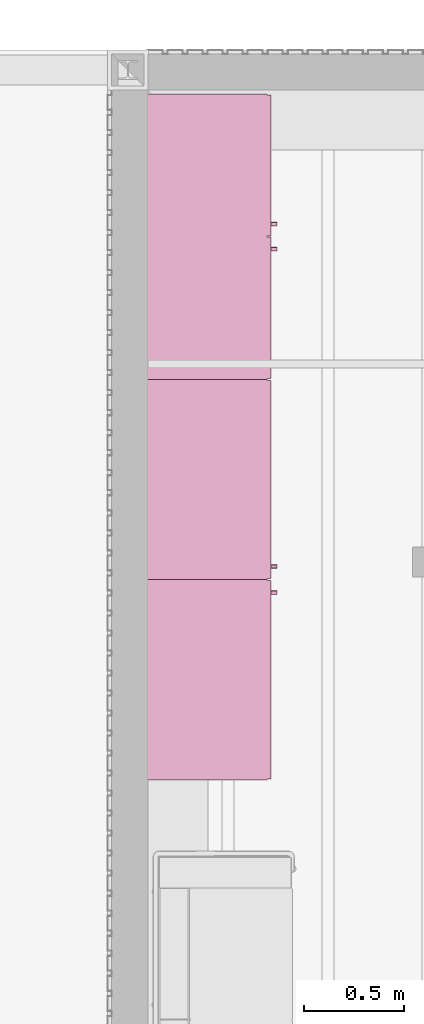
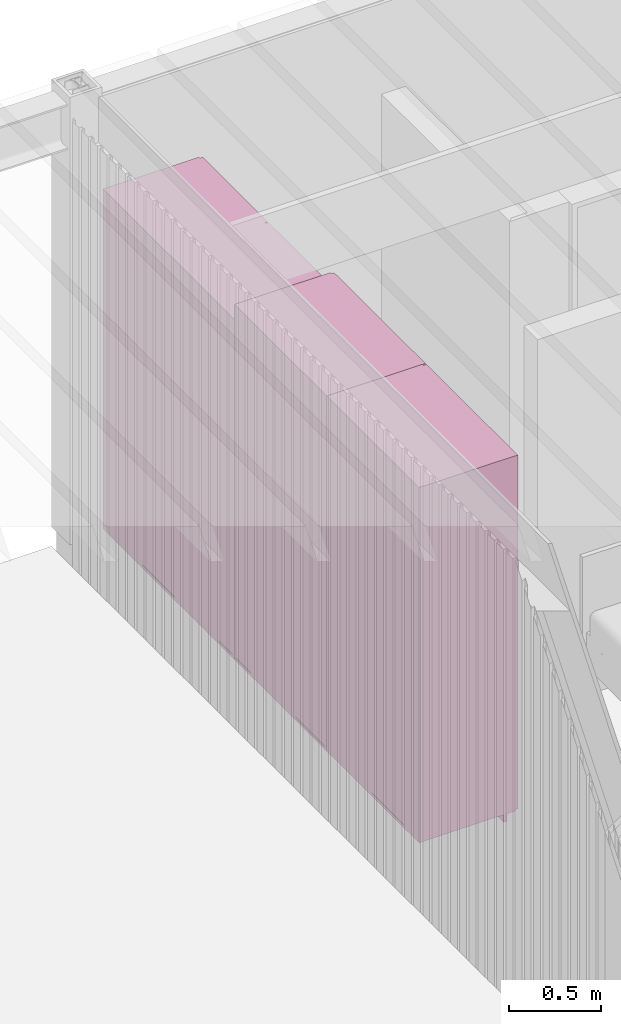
# One storey, part 24 of 28: 3 furniture elements.
"""IFC4X3_ADD2 building model written with IfcOpenShell, lengths in metres."""

from ifc_helpers import new_model, si_unit, direction, frame, frame_2d, origin_with_axes, origin_2d_with_axis, place, context, subcontext, project, spatial, polyline, rectangle, outline, extrude, source, transform, mapped, material, element, save


model = new_model("IFC4X3_ADD2")

# Units and contexts
model_context = context("Model", 3, precision=1e-05, world=origin_with_axes(), true_north=direction((0.0, 1.0)))
body_context = subcontext(model_context, "Body", "Model", "MODEL_VIEW")
ifc_project = project(units=[si_unit("LENGTHUNIT", "METRE"), si_unit("AREAUNIT", "SQUARE_METRE"), si_unit("VOLUMEUNIT", "CUBIC_METRE"), si_unit("PLANEANGLEUNIT", "RADIAN"), si_unit("TIMEUNIT", "SECOND"), si_unit("MASSUNIT", "GRAM")], contexts=[model_context])

# Site, building, storey, space
site_placement = place(None, origin_with_axes())
site = spatial("IfcSite", under=ifc_project, at=site_placement, Name="Site", CompositionType="ELEMENT")
building_placement = place(site_placement, origin_with_axes())
building = spatial("IfcBuilding", under=site, at=building_placement, Name="Default Building")
storey_placement = place(building_placement, frame((0.0, 0.0, -0.08), z_axis=(0.0, 0.0, 1.0), x_axis=(1.0, 0.0, 0.0)))
storey = spatial("IfcBuildingStorey", under=building, at=storey_placement, Name="Gruendung", Elevation=-0.08)
space_placement = place(storey_placement, frame((6.600001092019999, 16.100001, 0.08), z_axis=(0.0, 0.0, 1.0), x_axis=(1.0, 0.0, 0.0)))
space = spatial("IfcSpace", under=storey, at=space_placement, Name="Space", CompositionType="ELEMENT", PredefinedType="SPACE")

# Furniture
ifc_material = material(Name="Default")
shared_shape_1 = source(origin_with_axes(), body_context, "Body", "SweptSolid", [
    extrude(rectangle(XDim=0.6, YDim=0.02, at=frame_2d((0.0, 0.0), x_axis=(0.0, 1.0))), frame((0.01, 0.3, 0.05000000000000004), z_axis=(0.0, 0.0, 1.0), x_axis=(1.0, 0.0, 0.0)), (0.0, 0.0, 1.0), 2.25),
    extrude(rectangle(XDim=0.6, YDim=0.02000000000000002, at=frame_2d((0.0, 0.0), x_axis=(0.0, 1.0))), frame((1.415, 0.3, 0.05000000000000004), z_axis=(0.0, 0.0, 1.0), x_axis=(1.0, 0.0, 0.0)), (0.0, 0.0, 1.0), 2.25),
    extrude(rectangle(XDim=1.385, YDim=0.6, at=origin_2d_with_axis()), frame((0.7125, 0.3, 2.28), z_axis=(0.0, 0.0, 1.0), x_axis=(1.0, 0.0, 0.0)), (0.0, 0.0, 1.0), 0.01999999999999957),
    extrude(rectangle(XDim=1.385, YDim=0.6, at=origin_2d_with_axis()), frame((0.7125, 0.3, 0.05), z_axis=(0.0, 0.0, 1.0), x_axis=(1.0, 0.0, 0.0)), (0.0, 0.0, 1.0), 0.02),
    extrude(rectangle(XDim=1.385, YDim=0.02000000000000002, at=origin_2d_with_axis()), frame((0.7125, 0.589, 0.06999999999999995), z_axis=(0.0, 0.0, 1.0), x_axis=(1.0, 0.0, 0.0)), (0.0, 0.0, 1.0), 2.21),
    extrude(rectangle(XDim=0.705, YDim=0.02, at=origin_2d_with_axis()), frame((0.3574999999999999, -0.0115, 0.05500000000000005), z_axis=(0.0, 0.0, 1.0), x_axis=(1.0, 0.0, 0.0)), (0.0, 0.0, 1.0), 2.24),
    extrude(rectangle(XDim=0.7049999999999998, YDim=0.02, at=origin_2d_with_axis()), frame((1.0675, -0.0115, 0.05500000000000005), z_axis=(0.0, 0.0, 1.0), x_axis=(1.0, 0.0, 0.0)), (0.0, 0.0, 1.0), 2.24),
    extrude(rectangle(XDim=1.425, YDim=0.02, at=origin_2d_with_axis()), frame((0.7125, 0.06, 0.0), z_axis=(0.0, 0.0, 1.0), x_axis=(1.0, 0.0, 0.0)), (0.0, 0.0, 1.0), 0.05),
    extrude(outline(polyline([(0.00980751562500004, 0.00195048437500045), (0.009951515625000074, 0.0009794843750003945), (0.009999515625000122, 4.843750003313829e-07), (0.009951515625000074, -0.0009795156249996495), (0.00980751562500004, -0.001950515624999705), (0.009568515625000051, -0.002902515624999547), (0.00923851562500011, -0.003826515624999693), (0.008818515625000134, -0.004713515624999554), (0.008314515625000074, -0.005555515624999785), (0.007729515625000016, -0.006343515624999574), (0.007070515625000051, -0.007070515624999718), (0.006343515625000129, -0.007729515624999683), (0.005555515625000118, -0.008314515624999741), (0.004713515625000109, -0.008818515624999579), (0.003826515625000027, -0.009238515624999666), (0.002902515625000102, -0.009568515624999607), (0.001950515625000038, -0.009807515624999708), (0.0009795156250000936, -0.00995151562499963), (-4.843749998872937e-07, -0.009999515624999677), (-0.0009794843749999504, -0.00995151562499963), (-0.001950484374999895, -0.009807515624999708), (-0.002902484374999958, -0.009568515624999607), (-0.003826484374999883, -0.009238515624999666), (-0.004713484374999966, -0.008818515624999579), (-0.005555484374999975, -0.008314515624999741), (-0.006343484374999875, -0.007729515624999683), (-0.007070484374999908, -0.007070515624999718), (-0.007729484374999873, -0.006343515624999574), (-0.008314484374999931, -0.005555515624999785), (-0.00881848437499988, -0.004713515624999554), (-0.009238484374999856, -0.003826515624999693), (-0.009568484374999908, -0.002902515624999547), (-0.009807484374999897, -0.001950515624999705), (-0.00995148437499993, -0.0009795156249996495), (-0.009999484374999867, 4.843750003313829e-07), (-0.00995148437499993, 0.0009794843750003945), (-0.009807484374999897, 0.00195048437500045), (-0.009568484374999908, 0.002902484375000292), (-0.009238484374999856, 0.003826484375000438), (-0.00881848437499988, 0.004713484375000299), (-0.008314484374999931, 0.005555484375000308), (-0.007729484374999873, 0.006343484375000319), (-0.007070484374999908, 0.007070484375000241), (-0.006343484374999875, 0.007729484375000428), (-0.005555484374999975, 0.008314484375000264), (-0.004713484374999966, 0.008818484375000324), (-0.003826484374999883, 0.00923848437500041), (-0.002902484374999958, 0.009568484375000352), (-0.001950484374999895, 0.009807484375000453), (-0.0009794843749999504, 0.009951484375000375), (-4.843749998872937e-07, 0.009999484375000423), (0.0009795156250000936, 0.009951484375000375), (0.001950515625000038, 0.009807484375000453), (0.002902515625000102, 0.009568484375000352), (0.003826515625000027, 0.00923848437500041), (0.004713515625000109, 0.008818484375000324), (0.005555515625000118, 0.008314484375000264), (0.006343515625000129, 0.007729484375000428), (0.007070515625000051, 0.007070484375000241), (0.007729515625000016, 0.006343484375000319), (0.008314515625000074, 0.005555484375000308), (0.008818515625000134, 0.004713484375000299), (0.00923851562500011, 0.003826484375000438), (0.009568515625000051, 0.002902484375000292), (0.00980751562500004, 0.00195048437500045)])), frame((0.6500004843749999, -0.05149999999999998, 1.175000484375), z_axis=(0.0, 1.0, 0.0), x_axis=(1.0, 0.0, 0.0)), (0.0, 0.0, 1.0), 0.02999999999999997),
    extrude(outline(polyline([(0.00980751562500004, 0.00195048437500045), (0.009951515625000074, 0.0009794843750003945), (0.009999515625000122, 4.843750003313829e-07), (0.009951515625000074, -0.0009795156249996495), (0.00980751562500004, -0.001950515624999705), (0.009568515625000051, -0.002902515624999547), (0.00923851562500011, -0.003826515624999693), (0.008818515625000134, -0.004713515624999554), (0.008314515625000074, -0.005555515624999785), (0.007729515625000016, -0.006343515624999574), (0.007070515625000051, -0.007070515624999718), (0.006343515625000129, -0.007729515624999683), (0.005555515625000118, -0.008314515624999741), (0.004713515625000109, -0.008818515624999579), (0.003826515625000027, -0.009238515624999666), (0.002902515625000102, -0.009568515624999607), (0.001950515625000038, -0.009807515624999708), (0.0009795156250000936, -0.00995151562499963), (-4.843749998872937e-07, -0.009999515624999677), (-0.0009794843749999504, -0.00995151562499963), (-0.001950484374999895, -0.009807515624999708), (-0.002902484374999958, -0.009568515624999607), (-0.003826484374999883, -0.009238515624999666), (-0.004713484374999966, -0.008818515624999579), (-0.005555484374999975, -0.008314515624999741), (-0.006343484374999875, -0.007729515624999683), (-0.007070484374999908, -0.007070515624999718), (-0.007729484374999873, -0.006343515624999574), (-0.008314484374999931, -0.005555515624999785), (-0.00881848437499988, -0.004713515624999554), (-0.009238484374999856, -0.003826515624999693), (-0.009568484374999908, -0.002902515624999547), (-0.009807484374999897, -0.001950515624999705), (-0.00995148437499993, -0.0009795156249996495), (-0.009999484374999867, 4.843750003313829e-07), (-0.00995148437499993, 0.0009794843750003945), (-0.009807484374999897, 0.00195048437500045), (-0.009568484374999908, 0.002902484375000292), (-0.009238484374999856, 0.003826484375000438), (-0.00881848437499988, 0.004713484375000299), (-0.008314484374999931, 0.005555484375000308), (-0.007729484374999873, 0.006343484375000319), (-0.007070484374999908, 0.007070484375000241), (-0.006343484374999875, 0.007729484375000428), (-0.005555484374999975, 0.008314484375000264), (-0.004713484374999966, 0.008818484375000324), (-0.003826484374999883, 0.00923848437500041), (-0.002902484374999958, 0.009568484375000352), (-0.001950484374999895, 0.009807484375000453), (-0.0009794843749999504, 0.009951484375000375), (-4.843749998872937e-07, 0.009999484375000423), (0.0009795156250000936, 0.009951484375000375), (0.001950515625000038, 0.009807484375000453), (0.002902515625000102, 0.009568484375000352), (0.003826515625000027, 0.00923848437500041), (0.004713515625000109, 0.008818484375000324), (0.005555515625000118, 0.008314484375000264), (0.006343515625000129, 0.007729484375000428), (0.007070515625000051, 0.007070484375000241), (0.007729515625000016, 0.006343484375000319), (0.008314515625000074, 0.005555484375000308), (0.008818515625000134, 0.004713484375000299), (0.00923851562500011, 0.003826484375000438), (0.009568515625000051, 0.002902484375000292), (0.00980751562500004, 0.00195048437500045)])), frame((0.7750004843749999, -0.05149999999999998, 1.175000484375), z_axis=(0.0, 1.0, 0.0), x_axis=(1.0, 0.0, 0.0)), (0.0, 0.0, 1.0), 0.02999999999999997),
])
furniture_1_placement = place(storey_placement, frame((7.195, 21.88, 0.08), z_axis=(0.0, 0.0, 1.0), x_axis=(0.0, -1.0, 0.0)))
element("IfcFurniture", 1, at=furniture_1_placement, inside=space, material=ifc_material, Name="IfcFurniture", PredefinedType="FILECABINET", context=body_context, shape_type="MappedRepresentation", body=[
    mapped(shared_shape_1, transform((0.0, 0.0, 0.0), x_axis=(1.0, 0.0, 0.0), y_axis=(0.0, -1.0, 0.0), z_axis=(0.0, 0.0, 1.0), scale=1.0)),
])
shared_shape_2 = source(origin_with_axes(), body_context, "Body", "SweptSolid", [
    extrude(rectangle(XDim=0.6, YDim=0.02, at=frame_2d((0.0, 0.0), x_axis=(0.0, 1.0))), frame((0.01, 0.3, 0.05000000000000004), z_axis=(0.0, 0.0, 1.0), x_axis=(1.0, 0.0, 0.0)), (0.0, 0.0, 1.0), 2.350000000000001),
    extrude(rectangle(XDim=0.6, YDim=0.02000000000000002, at=frame_2d((0.0, 0.0), x_axis=(0.0, 1.0))), frame((0.99, 0.3, 0.05000000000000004), z_axis=(0.0, 0.0, 1.0), x_axis=(1.0, 0.0, 0.0)), (0.0, 0.0, 1.0), 2.350000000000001),
    extrude(rectangle(XDim=0.96, YDim=0.6, at=origin_2d_with_axis()), frame((0.5, 0.3, 2.38), z_axis=(0.0, 0.0, 1.0), x_axis=(1.0, 0.0, 0.0)), (0.0, 0.0, 1.0), 0.02000000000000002),
    extrude(rectangle(XDim=0.96, YDim=0.6, at=origin_2d_with_axis()), frame((0.5, 0.3, 0.05), z_axis=(0.0, 0.0, 1.0), x_axis=(1.0, 0.0, 0.0)), (0.0, 0.0, 1.0), 0.02),
    extrude(rectangle(XDim=0.96, YDim=0.02000000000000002, at=origin_2d_with_axis()), frame((0.5, 0.589, 0.06999999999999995), z_axis=(0.0, 0.0, 1.0), x_axis=(1.0, 0.0, 0.0)), (0.0, 0.0, 1.0), 2.31),
    extrude(rectangle(XDim=0.99, YDim=0.02, at=origin_2d_with_axis()), frame((0.5, -0.0115, 0.05500000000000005), z_axis=(0.0, 0.0, 1.0), x_axis=(1.0, 0.0, 0.0)), (0.0, 0.0, 1.0), 2.34),
    extrude(rectangle(XDim=1.0, YDim=0.02, at=origin_2d_with_axis()), frame((0.5, 0.06, 0.0), z_axis=(0.0, 0.0, 1.0), x_axis=(1.0, 0.0, 0.0)), (0.0, 0.0, 1.0), 0.05),
    extrude(outline(polyline([(0.00980751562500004, 0.00195048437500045), (0.009951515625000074, 0.0009794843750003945), (0.009999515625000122, 4.843750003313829e-07), (0.009951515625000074, -0.0009795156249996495), (0.00980751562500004, -0.001950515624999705), (0.009568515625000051, -0.002902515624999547), (0.00923851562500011, -0.003826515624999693), (0.008818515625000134, -0.004713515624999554), (0.008314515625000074, -0.005555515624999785), (0.007729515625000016, -0.006343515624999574), (0.007070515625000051, -0.007070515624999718), (0.006343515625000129, -0.007729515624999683), (0.005555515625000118, -0.008314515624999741), (0.004713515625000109, -0.008818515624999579), (0.003826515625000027, -0.009238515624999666), (0.002902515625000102, -0.009568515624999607), (0.001950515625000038, -0.009807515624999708), (0.0009795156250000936, -0.00995151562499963), (-4.843749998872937e-07, -0.009999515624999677), (-0.0009794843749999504, -0.00995151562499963), (-0.001950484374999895, -0.009807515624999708), (-0.002902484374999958, -0.009568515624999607), (-0.003826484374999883, -0.009238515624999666), (-0.004713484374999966, -0.008818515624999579), (-0.005555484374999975, -0.008314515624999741), (-0.006343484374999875, -0.007729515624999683), (-0.007070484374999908, -0.007070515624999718), (-0.007729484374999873, -0.006343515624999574), (-0.008314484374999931, -0.005555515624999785), (-0.00881848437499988, -0.004713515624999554), (-0.009238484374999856, -0.003826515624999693), (-0.009568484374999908, -0.002902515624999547), (-0.009807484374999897, -0.001950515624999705), (-0.00995148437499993, -0.0009795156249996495), (-0.009999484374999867, 4.843750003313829e-07), (-0.00995148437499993, 0.0009794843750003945), (-0.009807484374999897, 0.00195048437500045), (-0.009568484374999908, 0.002902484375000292), (-0.009238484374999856, 0.003826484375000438), (-0.00881848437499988, 0.004713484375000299), (-0.008314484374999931, 0.005555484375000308), (-0.007729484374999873, 0.006343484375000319), (-0.007070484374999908, 0.007070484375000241), (-0.006343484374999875, 0.007729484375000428), (-0.005555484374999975, 0.008314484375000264), (-0.004713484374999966, 0.008818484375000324), (-0.003826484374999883, 0.00923848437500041), (-0.002902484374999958, 0.009568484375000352), (-0.001950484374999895, 0.009807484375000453), (-0.0009794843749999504, 0.009951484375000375), (-4.843749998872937e-07, 0.009999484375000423), (0.0009795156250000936, 0.009951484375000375), (0.001950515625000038, 0.009807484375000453), (0.002902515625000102, 0.009568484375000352), (0.003826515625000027, 0.00923848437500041), (0.004713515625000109, 0.008818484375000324), (0.005555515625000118, 0.008314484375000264), (0.006343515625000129, 0.007729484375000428), (0.007070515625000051, 0.007070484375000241), (0.007729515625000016, 0.006343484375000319), (0.008314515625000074, 0.005555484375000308), (0.008818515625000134, 0.004713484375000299), (0.00923851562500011, 0.003826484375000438), (0.009568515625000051, 0.002902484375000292), (0.00980751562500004, 0.00195048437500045)])), frame((0.9350004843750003, -0.05149999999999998, 1.225000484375), z_axis=(0.0, 1.0, 0.0), x_axis=(1.0, 0.0, 0.0)), (0.0, 0.0, 1.0), 0.02999999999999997),
])
furniture_2_placement = place(storey_placement, frame((7.195, 20.455, 0.08), z_axis=(0.0, 0.0, 1.0), x_axis=(0.0, -1.0, 0.0)))
element("IfcFurniture", 2, at=furniture_2_placement, inside=space, material=ifc_material, Name="IfcFurniture", PredefinedType="FILECABINET", context=body_context, shape_type="MappedRepresentation", body=[
    mapped(shared_shape_2, transform((0.0, 0.0, 0.0), x_axis=(1.0, 0.0, 0.0), y_axis=(0.0, -1.0, 0.0), z_axis=(0.0, 0.0, 1.0), scale=1.0)),
])
shared_shape_3 = source(origin_with_axes(), body_context, "Body", "SweptSolid", [
    extrude(rectangle(XDim=0.6, YDim=0.02, at=frame_2d((0.0, 0.0), x_axis=(0.0, 1.0))), frame((0.01, 0.3, 0.05000000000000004), z_axis=(0.0, 0.0, 1.0), x_axis=(1.0, 0.0, 0.0)), (0.0, 0.0, 1.0), 2.350000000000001),
    extrude(rectangle(XDim=0.6, YDim=0.02000000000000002, at=frame_2d((0.0, 0.0), x_axis=(0.0, 1.0))), frame((0.99, 0.3, 0.05000000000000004), z_axis=(0.0, 0.0, 1.0), x_axis=(1.0, 0.0, 0.0)), (0.0, 0.0, 1.0), 2.350000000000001),
    extrude(rectangle(XDim=0.96, YDim=0.6, at=origin_2d_with_axis()), frame((0.5, 0.3, 2.38), z_axis=(0.0, 0.0, 1.0), x_axis=(1.0, 0.0, 0.0)), (0.0, 0.0, 1.0), 0.02000000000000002),
    extrude(rectangle(XDim=0.96, YDim=0.6, at=origin_2d_with_axis()), frame((0.5, 0.3, 0.05), z_axis=(0.0, 0.0, 1.0), x_axis=(1.0, 0.0, 0.0)), (0.0, 0.0, 1.0), 0.02),
    extrude(rectangle(XDim=0.96, YDim=0.02000000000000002, at=origin_2d_with_axis()), frame((0.5, 0.589, 0.06999999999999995), z_axis=(0.0, 0.0, 1.0), x_axis=(1.0, 0.0, 0.0)), (0.0, 0.0, 1.0), 2.31),
    extrude(rectangle(XDim=0.99, YDim=0.02, at=origin_2d_with_axis()), frame((0.5, -0.0115, 0.05500000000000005), z_axis=(0.0, 0.0, 1.0), x_axis=(1.0, 0.0, 0.0)), (0.0, 0.0, 1.0), 2.34),
    extrude(rectangle(XDim=1.0, YDim=0.02, at=origin_2d_with_axis()), frame((0.5, 0.06, 0.0), z_axis=(0.0, 0.0, 1.0), x_axis=(1.0, 0.0, 0.0)), (0.0, 0.0, 1.0), 0.05),
    extrude(outline(polyline([(0.00980751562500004, 0.00195048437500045), (0.009951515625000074, 0.0009794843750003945), (0.009999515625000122, 4.843750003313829e-07), (0.009951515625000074, -0.0009795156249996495), (0.00980751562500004, -0.001950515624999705), (0.009568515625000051, -0.002902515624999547), (0.00923851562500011, -0.003826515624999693), (0.008818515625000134, -0.004713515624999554), (0.008314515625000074, -0.005555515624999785), (0.007729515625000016, -0.006343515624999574), (0.007070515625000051, -0.007070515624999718), (0.006343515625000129, -0.007729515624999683), (0.005555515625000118, -0.008314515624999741), (0.004713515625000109, -0.008818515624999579), (0.003826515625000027, -0.009238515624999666), (0.002902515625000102, -0.009568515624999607), (0.001950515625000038, -0.009807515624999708), (0.0009795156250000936, -0.00995151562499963), (-4.843749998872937e-07, -0.009999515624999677), (-0.0009794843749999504, -0.00995151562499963), (-0.001950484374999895, -0.009807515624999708), (-0.002902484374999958, -0.009568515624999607), (-0.003826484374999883, -0.009238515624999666), (-0.004713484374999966, -0.008818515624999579), (-0.005555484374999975, -0.008314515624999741), (-0.006343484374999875, -0.007729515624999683), (-0.007070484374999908, -0.007070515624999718), (-0.007729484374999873, -0.006343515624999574), (-0.008314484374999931, -0.005555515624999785), (-0.00881848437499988, -0.004713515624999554), (-0.009238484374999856, -0.003826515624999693), (-0.009568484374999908, -0.002902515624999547), (-0.009807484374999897, -0.001950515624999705), (-0.00995148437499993, -0.0009795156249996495), (-0.009999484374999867, 4.843750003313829e-07), (-0.00995148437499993, 0.0009794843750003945), (-0.009807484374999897, 0.00195048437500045), (-0.009568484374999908, 0.002902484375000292), (-0.009238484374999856, 0.003826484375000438), (-0.00881848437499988, 0.004713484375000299), (-0.008314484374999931, 0.005555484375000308), (-0.007729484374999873, 0.006343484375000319), (-0.007070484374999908, 0.007070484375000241), (-0.006343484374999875, 0.007729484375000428), (-0.005555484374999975, 0.008314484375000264), (-0.004713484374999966, 0.008818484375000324), (-0.003826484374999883, 0.00923848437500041), (-0.002902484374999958, 0.009568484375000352), (-0.001950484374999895, 0.009807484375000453), (-0.0009794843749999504, 0.009951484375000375), (-4.843749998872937e-07, 0.009999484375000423), (0.0009795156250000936, 0.009951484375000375), (0.001950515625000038, 0.009807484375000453), (0.002902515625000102, 0.009568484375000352), (0.003826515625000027, 0.00923848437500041), (0.004713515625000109, 0.008818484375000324), (0.005555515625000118, 0.008314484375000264), (0.006343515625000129, 0.007729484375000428), (0.007070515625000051, 0.007070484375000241), (0.007729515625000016, 0.006343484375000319), (0.008314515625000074, 0.005555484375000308), (0.008818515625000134, 0.004713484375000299), (0.00923851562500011, 0.003826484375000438), (0.009568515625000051, 0.002902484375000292), (0.00980751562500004, 0.00195048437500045)])), frame((0.06500048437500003, -0.05149999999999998, 1.225000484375), z_axis=(0.0, 1.0, 0.0), x_axis=(1.0, 0.0, 0.0)), (0.0, 0.0, 1.0), 0.02999999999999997),
])
furniture_3_placement = place(storey_placement, frame((7.195, 19.455, 0.08), z_axis=(0.0, 0.0, 1.0), x_axis=(0.0, -1.0, 0.0)))
element("IfcFurniture", 3, at=furniture_3_placement, inside=space, material=ifc_material, Name="IfcFurniture", PredefinedType="FILECABINET", context=body_context, shape_type="MappedRepresentation", body=[
    mapped(shared_shape_3, transform((0.0, 0.0, 0.0), x_axis=(1.0, 0.0, 0.0), y_axis=(0.0, -1.0, 0.0), z_axis=(0.0, 0.0, 1.0), scale=1.0)),
])

save(model, "model.ifc")
